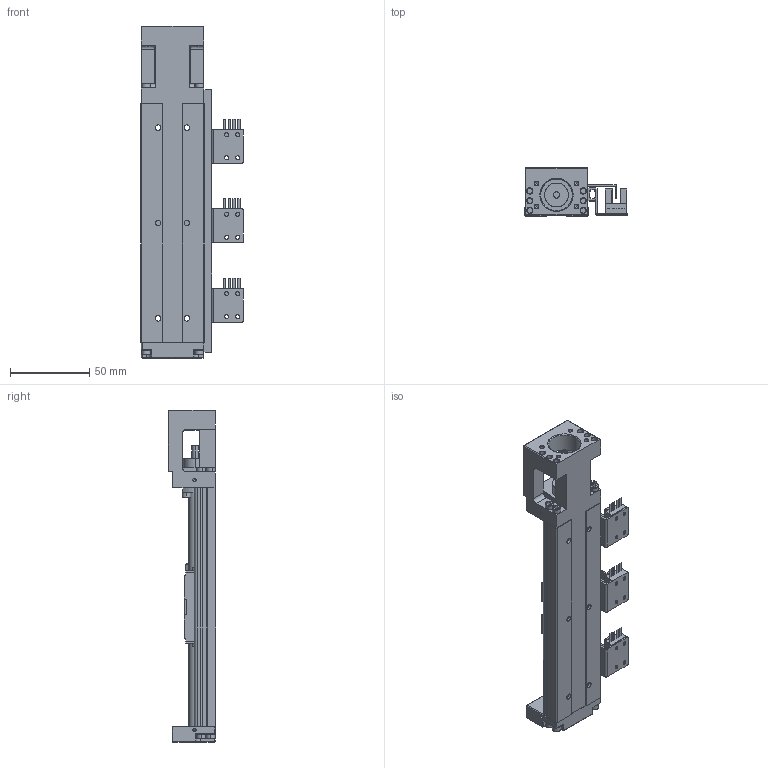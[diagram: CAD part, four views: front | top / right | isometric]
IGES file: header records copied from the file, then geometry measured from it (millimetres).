
Start section: SolidWorks IGES file using analytic representation for surfaces
Bounding box: 64.55 x 30 x 209 mm (x, y, z)
Surface area: 62169.6 mm2 (no closed solid volume)
Topology: 0 solids, 0 shells, 1147 faces, 13458 edges, 13376 vertices
Faces by surface type: bspline 651, revolution 496
